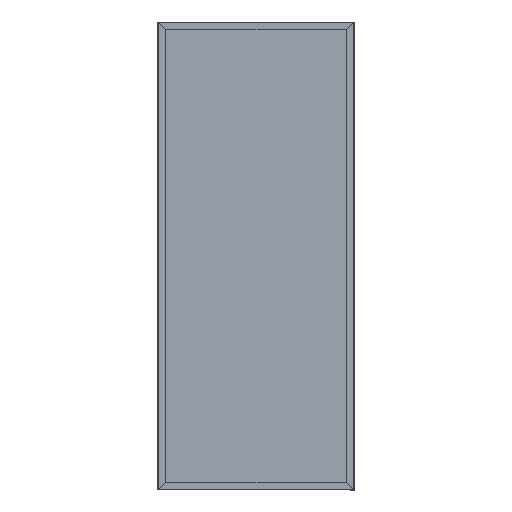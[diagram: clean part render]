
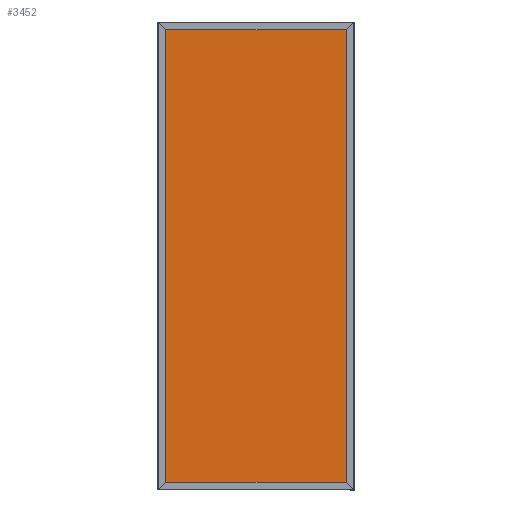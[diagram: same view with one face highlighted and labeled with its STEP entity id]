
A CAD part, top view. The second image highlights one B-rep face of the part: STEP entity #3452.
In plain terms, the highlighted planar face has unit normal (0, 0, 1).
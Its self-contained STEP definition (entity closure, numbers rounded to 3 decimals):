
#132 = LINE ( 'NONE', #17078, #3358 ) ;
#439 = CARTESIAN_POINT ( 'NONE',  ( -465.07, 0., -13.25 ) ) ;
#2217 = LINE ( 'NONE', #15630, #6304 ) ;
#2309 = EDGE_LOOP ( 'NONE', ( #21820, #23424, #17468, #24875 ) ) ;
#3091 = CARTESIAN_POINT ( 'NONE',  ( -465.07, -1162.2, -13.25 ) ) ;
#3358 = VECTOR ( 'NONE', #19073, 1000. ) ;
#3452 = ADVANCED_FACE ( 'NONE', ( #15842 ), #18102, .F. ) ;
#3562 = AXIS2_PLACEMENT_3D ( 'NONE', #17814, #13860, #15691 ) ;
#4759 = DIRECTION ( 'NONE',  ( -1., 0., 0. ) ) ;
#6068 = VECTOR ( 'NONE', #18183, 1000. ) ;
#6304 = VECTOR ( 'NONE', #4759, 1000. ) ;
#6696 = CARTESIAN_POINT ( 'NONE',  ( 465.07, -1162.2, -13.25 ) ) ;
#7560 = VERTEX_POINT ( 'NONE', #23360 ) ;
#9561 = LINE ( 'NONE', #15632, #6068 ) ;
#11511 = VERTEX_POINT ( 'NONE', #6696 ) ;
#12402 = EDGE_CURVE ( 'NONE', #18598, #7560, #9561, .T. ) ;
#13726 = LINE ( 'NONE', #439, #24975 ) ;
#13860 = DIRECTION ( 'NONE',  ( 0., 0., -1. ) ) ;
#14140 = DIRECTION ( 'NONE',  ( 0., 1., 0. ) ) ;
#15630 = CARTESIAN_POINT ( 'NONE',  ( 0., -1162.2, -13.25 ) ) ;
#15632 = CARTESIAN_POINT ( 'NONE',  ( 0., 1162.2, -13.25 ) ) ;
#15691 = DIRECTION ( 'NONE',  ( -1., 0., 0. ) ) ;
#15842 = FACE_OUTER_BOUND ( 'NONE', #2309, .T. ) ;
#17078 = CARTESIAN_POINT ( 'NONE',  ( 465.07, 0., -13.25 ) ) ;
#17468 = ORIENTED_EDGE ( 'NONE', *, *, #23546, .T. ) ;
#17814 = CARTESIAN_POINT ( 'NONE',  ( 0., 0., -13.25 ) ) ;
#18102 = PLANE ( 'NONE',  #3562 ) ;
#18183 = DIRECTION ( 'NONE',  ( -1., 0., 0. ) ) ;
#18598 = VERTEX_POINT ( 'NONE', #26560 ) ;
#19073 = DIRECTION ( 'NONE',  ( 0., 1., 0. ) ) ;
#21820 = ORIENTED_EDGE ( 'NONE', *, *, #22065, .F. ) ;
#22065 = EDGE_CURVE ( 'NONE', #23871, #7560, #13726, .T. ) ;
#23360 = CARTESIAN_POINT ( 'NONE',  ( -465.07, 1162.2, -13.25 ) ) ;
#23424 = ORIENTED_EDGE ( 'NONE', *, *, #27536, .F. ) ;
#23546 = EDGE_CURVE ( 'NONE', #11511, #18598, #132, .T. ) ;
#23871 = VERTEX_POINT ( 'NONE', #3091 ) ;
#24875 = ORIENTED_EDGE ( 'NONE', *, *, #12402, .T. ) ;
#24975 = VECTOR ( 'NONE', #14140, 1000. ) ;
#26560 = CARTESIAN_POINT ( 'NONE',  ( 465.07, 1162.2, -13.25 ) ) ;
#27536 = EDGE_CURVE ( 'NONE', #11511, #23871, #2217, .T. ) ;
